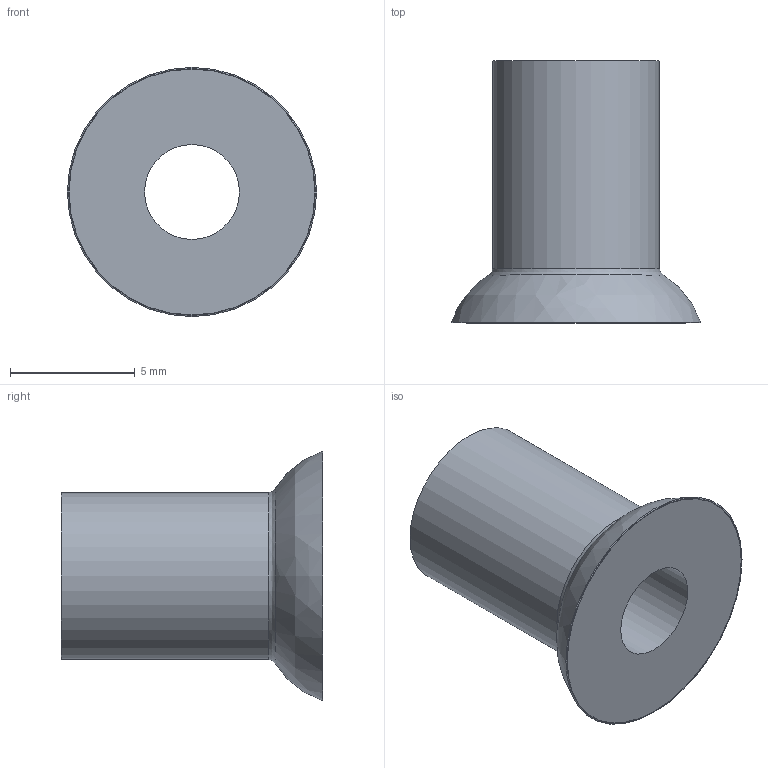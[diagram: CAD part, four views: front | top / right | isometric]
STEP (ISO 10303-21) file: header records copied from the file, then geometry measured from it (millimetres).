
FILE_DESCRIPTION((''),'2;1');
FILE_NAME('S:\Technik\Konstruktion\CAD-Daten\Kundenmodelle\112.010.011_Kd.stp','2010-10-05T10:19:33',('JGarcia-Martinez'),(''),'Autodesk Inventor 2009','Autodesk Inventor 2009','');
FILE_SCHEMA(('AUTOMOTIVE_DESIGN { 1 0 10303 214 1 1 1 1 }'));
Length unit declared in the file: millimetre
Products named in the file (1): 112.010
Bounding box: 9.99 x 10.5 x 9.99 mm (x, y, z)
Volume: 303.2 mm3; surface area: 465.8 mm2
Topology: 1 solids, 1 shells, 8 faces, 14 edges, 8 vertices
Faces by surface type: bspline 2, cylinder 2, plane 2, torus 1, cone 1
Full cylindrical faces by diameter (mm): 3.8 x1, 6.7 x1
Entity records: 256 total; most frequent: CARTESIAN_POINT 95, DIRECTION 30, ORIENTED_EDGE 16, EDGE_LOOP 16, AXIS2_PLACEMENT_3D 15, VERTEX_POINT 8, CIRCLE 8, EDGE_CURVE 8
